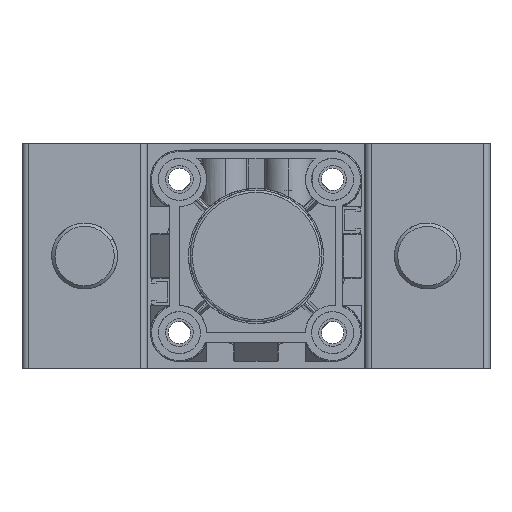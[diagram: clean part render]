
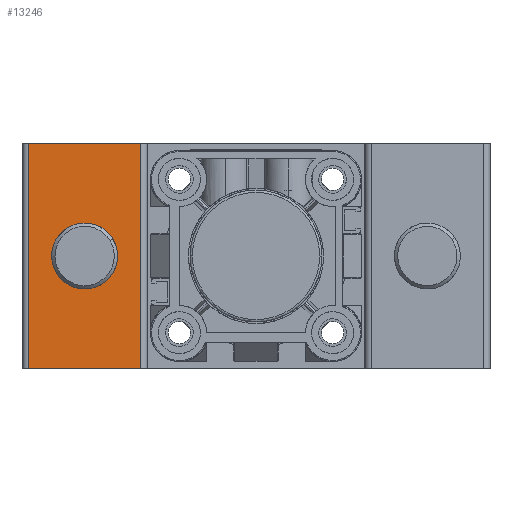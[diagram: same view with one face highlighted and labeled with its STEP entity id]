
A CAD part, front view. The second image highlights one B-rep face of the part: STEP entity #13246.
In plain terms, the highlighted planar face has unit normal (0, -1, 0).
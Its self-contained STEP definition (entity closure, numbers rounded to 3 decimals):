
#206 = CARTESIAN_POINT ( 'NONE',  ( 36., -151., 68.5 ) ) ;
#868 = VERTEX_POINT ( 'NONE', #10487 ) ;
#3195 = VERTEX_POINT ( 'NONE', #34706 ) ;
#4771 = LINE ( 'NONE', #7138, #27938 ) ;
#5448 = DIRECTION ( 'NONE',  ( -1., 0., 0. ) ) ;
#6071 = EDGE_CURVE ( 'NONE', #7784, #19986, #7226, .T. ) ;
#7138 = CARTESIAN_POINT ( 'NONE',  ( 36., -151., 68.5 ) ) ;
#7226 = LINE ( 'NONE', #206, #37563 ) ;
#7784 = VERTEX_POINT ( 'NONE', #27388 ) ;
#8918 = AXIS2_PLACEMENT_3D ( 'NONE', #13559, #34742, #16650 ) ;
#9641 = LINE ( 'NONE', #26606, #16773 ) ;
#10167 = DIRECTION ( 'NONE',  ( 0., 0., -1. ) ) ;
#10487 = CARTESIAN_POINT ( 'NONE',  ( 36., -151., 0. ) ) ;
#11072 = ORIENTED_EDGE ( 'NONE', *, *, #19501, .F. ) ;
#11211 = CARTESIAN_POINT ( 'NONE',  ( 2., -151., 68.5 ) ) ;
#11768 = ORIENTED_EDGE ( 'NONE', *, *, #30368, .T. ) ;
#13223 = EDGE_LOOP ( 'NONE', ( #28409, #23097 ) ) ;
#13246 = ADVANCED_FACE ( 'NONE', ( #16860, #25812 ), #20535, .F. ) ;
#13559 = CARTESIAN_POINT ( 'NONE',  ( 19., -151., 34.25 ) ) ;
#14265 = DIRECTION ( 'NONE',  ( 0., 0., -1. ) ) ;
#14437 = CARTESIAN_POINT ( 'NONE',  ( 36., -151., 68.5 ) ) ;
#14590 = DIRECTION ( 'NONE',  ( 1., 0., 0. ) ) ;
#14859 = CARTESIAN_POINT ( 'NONE',  ( 2., -151., 0. ) ) ;
#15550 = ORIENTED_EDGE ( 'NONE', *, *, #6071, .F. ) ;
#16229 = AXIS2_PLACEMENT_3D ( 'NONE', #14437, #23546, #5448 ) ;
#16395 = EDGE_CURVE ( 'NONE', #18673, #868, #9641, .T. ) ;
#16650 = DIRECTION ( 'NONE',  ( 0., 0., -1. ) ) ;
#16773 = VECTOR ( 'NONE', #14590, 1000. ) ;
#16780 = DIRECTION ( 'NONE',  ( 0., -1., 0. ) ) ;
#16860 = FACE_BOUND ( 'NONE', #13223, .T. ) ;
#18356 = CIRCLE ( 'NONE', #22491, 10. ) ;
#18368 = EDGE_CURVE ( 'NONE', #3195, #18863, #22333, .T. ) ;
#18673 = VERTEX_POINT ( 'NONE', #14859 ) ;
#18863 = VERTEX_POINT ( 'NONE', #30842 ) ;
#19276 = ORIENTED_EDGE ( 'NONE', *, *, #16395, .T. ) ;
#19501 = EDGE_CURVE ( 'NONE', #19986, #868, #4771, .T. ) ;
#19986 = VERTEX_POINT ( 'NONE', #22030 ) ;
#20535 = PLANE ( 'NONE',  #16229 ) ;
#20820 = LINE ( 'NONE', #11211, #22702 ) ;
#21252 = EDGE_LOOP ( 'NONE', ( #19276, #11072, #15550, #11768 ) ) ;
#22030 = CARTESIAN_POINT ( 'NONE',  ( 36., -151., 68.5 ) ) ;
#22333 = CIRCLE ( 'NONE', #8918, 10. ) ;
#22491 = AXIS2_PLACEMENT_3D ( 'NONE', #34881, #16780, #37967 ) ;
#22702 = VECTOR ( 'NONE', #14265, 1000. ) ;
#23097 = ORIENTED_EDGE ( 'NONE', *, *, #18368, .F. ) ;
#23546 = DIRECTION ( 'NONE',  ( 0., 1., 0. ) ) ;
#25812 = FACE_OUTER_BOUND ( 'NONE', #21252, .T. ) ;
#26606 = CARTESIAN_POINT ( 'NONE',  ( 36., -151., 0. ) ) ;
#27388 = CARTESIAN_POINT ( 'NONE',  ( 2., -151., 68.5 ) ) ;
#27938 = VECTOR ( 'NONE', #10167, 1000. ) ;
#28409 = ORIENTED_EDGE ( 'NONE', *, *, #36956, .F. ) ;
#30368 = EDGE_CURVE ( 'NONE', #7784, #18673, #20820, .T. ) ;
#30417 = DIRECTION ( 'NONE',  ( 1., 0., 0. ) ) ;
#30842 = CARTESIAN_POINT ( 'NONE',  ( 19., -151., 24.25 ) ) ;
#34706 = CARTESIAN_POINT ( 'NONE',  ( 19., -151., 44.25 ) ) ;
#34742 = DIRECTION ( 'NONE',  ( 0., -1., 0. ) ) ;
#34881 = CARTESIAN_POINT ( 'NONE',  ( 19., -151., 34.25 ) ) ;
#36956 = EDGE_CURVE ( 'NONE', #18863, #3195, #18356, .T. ) ;
#37563 = VECTOR ( 'NONE', #30417, 1000. ) ;
#37967 = DIRECTION ( 'NONE',  ( 0., 0., -1. ) ) ;
